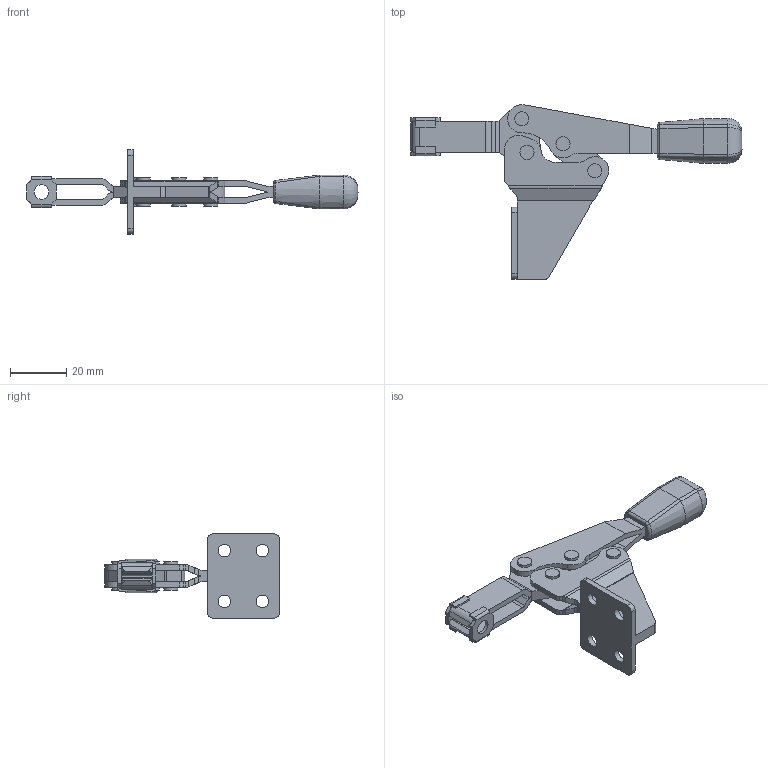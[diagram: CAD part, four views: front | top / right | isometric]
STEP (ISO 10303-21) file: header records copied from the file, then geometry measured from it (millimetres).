
FILE_DESCRIPTION (( 'STEP AP214' ), '1' );
FILE_NAME ('820.2-75-MF-NI.step', '2022-02-02T14:13:18', ( '' ), ( '' ), 'SwSTEP 2.0', 'SolidWorks 2019', '' );
FILE_SCHEMA (( 'AUTOMOTIVE_DESIGN' ));
Length unit declared in the file: millimetre
Products named in the file (6): 75_MF0-4^WB820.2-75; 820.2-75-MF-NI; 75_MF0-3^WB820.2-75; Speedy_ Scheibe^WB820.2-75_M5; 75_MF-1^WB820.2-75; 75_MF-2^WB820.2-75
Assembly tree (6 placements, depth 2):
  820.2-75-MF-NI
    75_MF-1^WB820.2-75
    75_MF-2^WB820.2-75
    75_MF0-3^WB820.2-75
    75_MF0-4^WB820.2-75
    Speedy_ Scheibe^WB820.2-75_M5  x2
Bounding box: 117.71 x 61.95 x 30 mm (x, y, z)
Volume: 16405.4 mm3; surface area: 13942.9 mm2
Topology: 6 solids, 6 shells, 241 faces, 644 edges, 420 vertices
Faces by surface type: plane 128, cylinder 85, bspline 22, cone 4, torus 2
Full cylindrical faces by diameter (mm): 4.5 x4, 5 x16, 5.2 x2
Entity records: 7975 total; most frequent: CARTESIAN_POINT 2097, ORIENTED_EDGE 1120, DIRECTION 1020, EDGE_CURVE 560, VERTEX_POINT 380, AXIS2_PLACEMENT_3D 359, LINE 302, VECTOR 302
